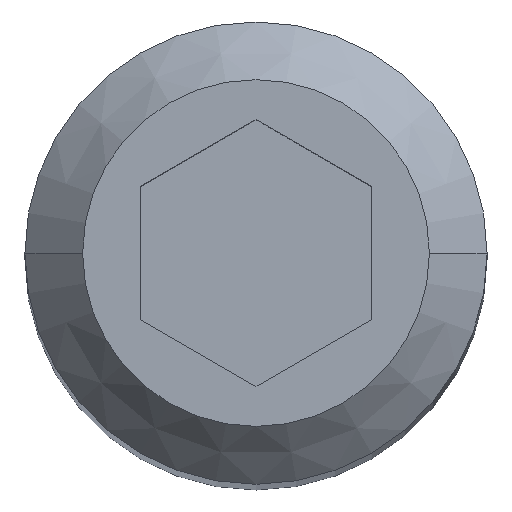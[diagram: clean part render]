
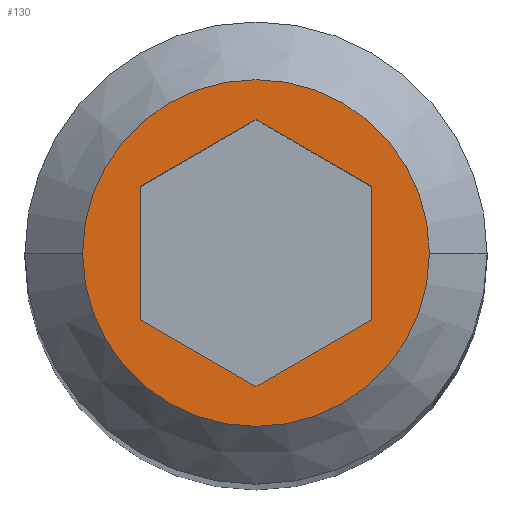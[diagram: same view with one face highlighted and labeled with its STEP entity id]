
A CAD part, top view. The second image highlights one B-rep face of the part: STEP entity #130.
In plain terms, the highlighted planar face has unit normal (0, 0, 1).
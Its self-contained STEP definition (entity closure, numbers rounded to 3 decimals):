
#5 = EDGE_LOOP ( 'NONE', ( #171, #31 ) ) ;
#10 = ORIENTED_EDGE ( 'NONE', *, *, #394, .F. ) ;
#14 = AXIS2_PLACEMENT_3D ( 'NONE', #198, #49, #414 ) ;
#26 = LINE ( 'NONE', #137, #489 ) ;
#31 = ORIENTED_EDGE ( 'NONE', *, *, #166, .T. ) ;
#49 = DIRECTION ( 'NONE',  ( 0., 0., 1. ) ) ;
#62 = EDGE_CURVE ( 'NONE', #379, #360, #139, .T. ) ;
#63 = DIRECTION ( 'NONE',  ( 0., 1., 0. ) ) ;
#71 = LINE ( 'NONE', #521, #659 ) ;
#76 = CARTESIAN_POINT ( 'NONE',  ( 0., 2.309, 61.6 ) ) ;
#100 = EDGE_CURVE ( 'NONE', #332, #127, #150, .T. ) ;
#106 = VERTEX_POINT ( 'NONE', #195 ) ;
#127 = VERTEX_POINT ( 'NONE', #359 ) ;
#130 = ADVANCED_FACE ( 'NONE', ( #249, #155 ), #363, .T. ) ;
#137 = CARTESIAN_POINT ( 'NONE',  ( 2., 1.155, 61.6 ) ) ;
#139 = CIRCLE ( 'NONE', #14, 3. ) ;
#150 = LINE ( 'NONE', #301, #658 ) ;
#151 = ORIENTED_EDGE ( 'NONE', *, *, #494, .F. ) ;
#155 = FACE_OUTER_BOUND ( 'NONE', #5, .T. ) ;
#165 = ORIENTED_EDGE ( 'NONE', *, *, #267, .F. ) ;
#166 = EDGE_CURVE ( 'NONE', #360, #379, #542, .T. ) ;
#171 = ORIENTED_EDGE ( 'NONE', *, *, #62, .T. ) ;
#177 = CARTESIAN_POINT ( 'NONE',  ( -2., 1.155, 61.6 ) ) ;
#187 = VERTEX_POINT ( 'NONE', #404 ) ;
#195 = CARTESIAN_POINT ( 'NONE',  ( 0., -2.309, 61.6 ) ) ;
#198 = CARTESIAN_POINT ( 'NONE',  ( 0., 0., 61.6 ) ) ;
#202 = CARTESIAN_POINT ( 'NONE',  ( 0., -3., 61.6 ) ) ;
#207 = AXIS2_PLACEMENT_3D ( 'NONE', #202, #460, #496 ) ;
#210 = CARTESIAN_POINT ( 'NONE',  ( 2., 1.155, 61.6 ) ) ;
#217 = VECTOR ( 'NONE', #225, 1000. ) ;
#219 = EDGE_CURVE ( 'NONE', #127, #106, #369, .T. ) ;
#225 = DIRECTION ( 'NONE',  ( -0.866, -0.5, 0. ) ) ;
#237 = DIRECTION ( 'NONE',  ( 1., 0., 0. ) ) ;
#242 = EDGE_LOOP ( 'NONE', ( #441, #525, #165, #458, #151, #10 ) ) ;
#249 = FACE_BOUND ( 'NONE', #242, .T. ) ;
#267 = EDGE_CURVE ( 'NONE', #544, #332, #631, .T. ) ;
#287 = VECTOR ( 'NONE', #462, 1000. ) ;
#289 = CARTESIAN_POINT ( 'NONE',  ( 0., 2.309, 61.6 ) ) ;
#297 = DIRECTION ( 'NONE',  ( 0., -1., 0. ) ) ;
#301 = CARTESIAN_POINT ( 'NONE',  ( -2., 1.155, 61.6 ) ) ;
#305 = VECTOR ( 'NONE', #457, 1000. ) ;
#332 = VERTEX_POINT ( 'NONE', #177 ) ;
#340 = EDGE_CURVE ( 'NONE', #514, #544, #26, .T. ) ;
#359 = CARTESIAN_POINT ( 'NONE',  ( -2., -1.155, 61.6 ) ) ;
#360 = VERTEX_POINT ( 'NONE', #382 ) ;
#363 = PLANE ( 'NONE',  #207 ) ;
#369 = LINE ( 'NONE', #618, #287 ) ;
#379 = VERTEX_POINT ( 'NONE', #559 ) ;
#382 = CARTESIAN_POINT ( 'NONE',  ( 3., 0., 61.6 ) ) ;
#394 = EDGE_CURVE ( 'NONE', #106, #187, #539, .T. ) ;
#397 = CARTESIAN_POINT ( 'NONE',  ( 0., -2.309, 61.6 ) ) ;
#404 = CARTESIAN_POINT ( 'NONE',  ( 2., -1.155, 61.6 ) ) ;
#407 = DIRECTION ( 'NONE',  ( 0., 0., 1. ) ) ;
#414 = DIRECTION ( 'NONE',  ( 1., 0., 0. ) ) ;
#441 = ORIENTED_EDGE ( 'NONE', *, *, #219, .F. ) ;
#457 = DIRECTION ( 'NONE',  ( 0.866, 0.5, 0. ) ) ;
#458 = ORIENTED_EDGE ( 'NONE', *, *, #340, .F. ) ;
#460 = DIRECTION ( 'NONE',  ( 0., 0., 1. ) ) ;
#462 = DIRECTION ( 'NONE',  ( 0.866, -0.5, 0. ) ) ;
#489 = VECTOR ( 'NONE', #582, 1000. ) ;
#494 = EDGE_CURVE ( 'NONE', #187, #514, #71, .T. ) ;
#496 = DIRECTION ( 'NONE',  ( 1., 0., 0. ) ) ;
#514 = VERTEX_POINT ( 'NONE', #210 ) ;
#521 = CARTESIAN_POINT ( 'NONE',  ( 2., -1.155, 61.6 ) ) ;
#525 = ORIENTED_EDGE ( 'NONE', *, *, #100, .F. ) ;
#539 = LINE ( 'NONE', #397, #305 ) ;
#542 = CIRCLE ( 'NONE', #552, 3. ) ;
#544 = VERTEX_POINT ( 'NONE', #289 ) ;
#552 = AXIS2_PLACEMENT_3D ( 'NONE', #608, #407, #237 ) ;
#559 = CARTESIAN_POINT ( 'NONE',  ( -3., 0., 61.6 ) ) ;
#582 = DIRECTION ( 'NONE',  ( -0.866, 0.5, 0. ) ) ;
#608 = CARTESIAN_POINT ( 'NONE',  ( 0., 0., 61.6 ) ) ;
#618 = CARTESIAN_POINT ( 'NONE',  ( -2., -1.155, 61.6 ) ) ;
#631 = LINE ( 'NONE', #76, #217 ) ;
#658 = VECTOR ( 'NONE', #297, 1000. ) ;
#659 = VECTOR ( 'NONE', #63, 1000. ) ;
